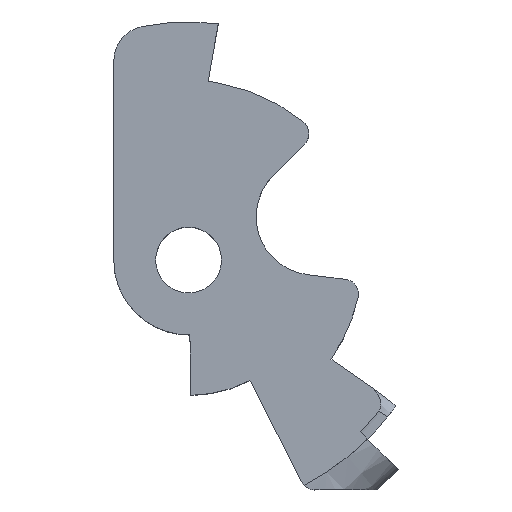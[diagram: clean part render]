
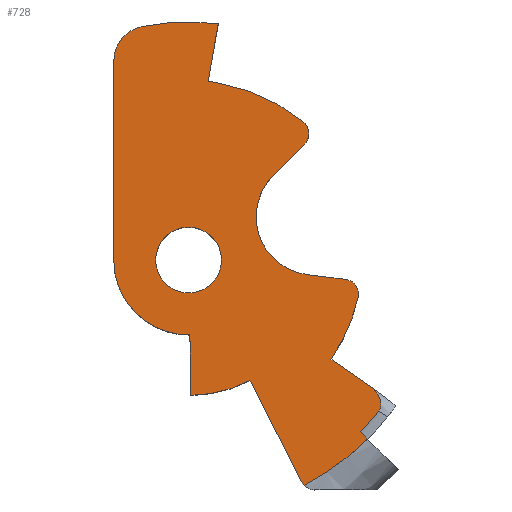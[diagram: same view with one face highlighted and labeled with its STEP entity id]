
A CAD part, top view. The second image highlights one B-rep face of the part: STEP entity #728.
In plain terms, the highlighted planar face has unit normal (0, 0, 1).
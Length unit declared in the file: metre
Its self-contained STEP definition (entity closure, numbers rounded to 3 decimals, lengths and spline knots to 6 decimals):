
#26=PLANE('',#807);
#32=LINE('',#1171,#75);
#37=LINE('',#1189,#80);
#43=LINE('',#1209,#86);
#47=LINE('',#1231,#90);
#51=LINE('',#1253,#94);
#55=LINE('',#1267,#98);
#59=LINE('',#1286,#102);
#63=LINE('',#1317,#106);
#66=LINE('',#1322,#109);
#75=VECTOR('',#842,1.);
#80=VECTOR('',#853,1.);
#86=VECTOR('',#865,1.);
#90=VECTOR('',#877,1.);
#94=VECTOR('',#889,1.);
#98=VECTOR('',#895,1.);
#102=VECTOR('',#901,1.);
#106=VECTOR('',#925,1.);
#109=VECTOR('',#930,1.);
#117=CIRCLE('',#748,0.00762);
#120=CIRCLE('',#757,0.010835);
#124=CIRCLE('',#764,0.005743);
#126=CIRCLE('',#768,0.003175);
#128=CIRCLE('',#774,0.007366);
#130=CIRCLE('',#777,0.002478);
#132=CIRCLE('',#780,0.001397);
#135=CIRCLE('',#787,0.000635);
#137=CIRCLE('',#790,0.000635);
#139=CIRCLE('',#793,0.000635);
#141=CIRCLE('',#798,0.010107);
#143=CIRCLE('',#801,0.0015);
#144=CIRCLE('',#805,0.010311);
#164=ELLIPSE('',#806,0.000899,0.000635);
#366=ORIENTED_EDGE('',*,*,#470,.F.);
#367=ORIENTED_EDGE('',*,*,#418,.F.);
#368=ORIENTED_EDGE('',*,*,#466,.T.);
#369=ORIENTED_EDGE('',*,*,#488,.T.);
#370=ORIENTED_EDGE('',*,*,#461,.T.);
#371=ORIENTED_EDGE('',*,*,#468,.T.);
#372=ORIENTED_EDGE('',*,*,#455,.T.);
#373=ORIENTED_EDGE('',*,*,#486,.T.);
#374=ORIENTED_EDGE('',*,*,#403,.T.);
#375=ORIENTED_EDGE('',*,*,#476,.F.);
#376=ORIENTED_EDGE('',*,*,#473,.T.);
#377=ORIENTED_EDGE('',*,*,#494,.T.);
#378=ORIENTED_EDGE('',*,*,#496,.T.);
#379=ORIENTED_EDGE('',*,*,#450,.T.);
#380=ORIENTED_EDGE('',*,*,#445,.T.);
#381=ORIENTED_EDGE('',*,*,#442,.T.);
#382=ORIENTED_EDGE('',*,*,#437,.T.);
#383=ORIENTED_EDGE('',*,*,#434,.T.);
#384=ORIENTED_EDGE('',*,*,#491,.T.);
#385=ORIENTED_EDGE('',*,*,#421,.T.);
#386=ORIENTED_EDGE('',*,*,#425,.T.);
#387=ORIENTED_EDGE('',*,*,#499,.F.);
#388=ORIENTED_EDGE('',*,*,#500,.F.);
#403=EDGE_CURVE('',#515,#514,#117,.T.);
#418=EDGE_CURVE('',#526,#527,#32,.T.);
#421=EDGE_CURVE('',#530,#529,#120,.T.);
#425=EDGE_CURVE('',#529,#532,#37,.T.);
#434=EDGE_CURVE('',#540,#539,#43,.T.);
#437=EDGE_CURVE('',#542,#540,#124,.T.);
#442=EDGE_CURVE('',#546,#542,#47,.T.);
#445=EDGE_CURVE('',#548,#546,#126,.T.);
#450=EDGE_CURVE('',#550,#548,#51,.T.);
#455=EDGE_CURVE('',#557,#556,#55,.T.);
#461=EDGE_CURVE('',#563,#562,#59,.T.);
#466=EDGE_CURVE('',#526,#566,#128,.T.);
#468=EDGE_CURVE('',#562,#557,#130,.T.);
#470=EDGE_CURVE('',#568,#568,#132,.T.);
#473=EDGE_CURVE('',#572,#571,#63,.T.);
#476=EDGE_CURVE('',#572,#514,#66,.T.);
#486=EDGE_CURVE('',#556,#515,#135,.T.);
#488=EDGE_CURVE('',#566,#563,#137,.T.);
#491=EDGE_CURVE('',#539,#530,#139,.T.);
#494=EDGE_CURVE('',#571,#579,#141,.T.);
#496=EDGE_CURVE('',#579,#550,#143,.T.);
#499=EDGE_CURVE('',#580,#532,#144,.F.);
#500=EDGE_CURVE('',#527,#580,#164,.F.);
#514=VERTEX_POINT('',#1119);
#515=VERTEX_POINT('',#1121);
#526=VERTEX_POINT('',#1170);
#527=VERTEX_POINT('',#1172);
#529=VERTEX_POINT('',#1177);
#530=VERTEX_POINT('',#1179);
#532=VERTEX_POINT('',#1188);
#539=VERTEX_POINT('',#1208);
#540=VERTEX_POINT('',#1210);
#542=VERTEX_POINT('',#1219);
#546=VERTEX_POINT('',#1232);
#548=VERTEX_POINT('',#1241);
#550=VERTEX_POINT('',#1250);
#556=VERTEX_POINT('',#1266);
#557=VERTEX_POINT('',#1268);
#562=VERTEX_POINT('',#1285);
#563=VERTEX_POINT('',#1287);
#566=VERTEX_POINT('',#1301);
#568=VERTEX_POINT('',#1310);
#571=VERTEX_POINT('',#1316);
#572=VERTEX_POINT('',#1318);
#579=VERTEX_POINT('',#1397);
#580=VERTEX_POINT('',#1410);
#651=EDGE_LOOP('',(#366));
#652=EDGE_LOOP('',(#367,#368,#369,#370,#371,#372,#373,#374,#375,#376,#377,
#378,#379,#380,#381,#382,#383,#384,#385,#386,#387,#388));
#689=FACE_BOUND('',#651,.T.);
#690=FACE_BOUND('',#652,.T.);
#728=ADVANCED_FACE('',(#689,#690),#26,.T.);
#748=AXIS2_PLACEMENT_3D('',#1120,#823,#824);
#757=AXIS2_PLACEMENT_3D('',#1178,#847,#848);
#764=AXIS2_PLACEMENT_3D('',#1218,#870,#871);
#768=AXIS2_PLACEMENT_3D('',#1240,#882,#883);
#774=AXIS2_PLACEMENT_3D('',#1302,#907,#908);
#777=AXIS2_PLACEMENT_3D('',#1305,#913,#914);
#780=AXIS2_PLACEMENT_3D('',#1309,#919,#920);
#787=AXIS2_PLACEMENT_3D('',#1383,#940,#941);
#790=AXIS2_PLACEMENT_3D('',#1386,#946,#947);
#793=AXIS2_PLACEMENT_3D('',#1390,#953,#954);
#798=AXIS2_PLACEMENT_3D('',#1398,#964,#965);
#801=AXIS2_PLACEMENT_3D('',#1401,#970,#971);
#805=AXIS2_PLACEMENT_3D('',#1411,#979,#980);
#806=AXIS2_PLACEMENT_3D('',#1422,#981,#982);
#807=AXIS2_PLACEMENT_3D('',#1423,#983,#984);
#823=DIRECTION('',(0.,0.,1.));
#824=DIRECTION('',(1.,0.,0.));
#842=DIRECTION('',(0.821,-0.571,0.));
#847=DIRECTION('',(0.,0.,1.));
#848=DIRECTION('',(1.,0.,0.));
#853=DIRECTION('',(-0.707,0.707,0.));
#865=DIRECTION('',(0.454,-0.891,0.));
#870=DIRECTION('',(0.,0.,1.));
#871=DIRECTION('',(1.,0.,0.));
#877=DIRECTION('',(0.017,-1.,0.));
#882=DIRECTION('',(0.,0.,1.));
#883=DIRECTION('',(1.,0.,0.));
#889=DIRECTION('',(0.,-1.,0.));
#895=DIRECTION('',(0.707,0.707,0.));
#901=DIRECTION('',(-0.993,0.122,0.));
#907=DIRECTION('',(0.,0.,1.));
#908=DIRECTION('',(1.,0.,0.));
#913=DIRECTION('',(0.,0.,-1.));
#914=DIRECTION('',(1.,0.,0.));
#919=DIRECTION('',(0.,0.,1.));
#920=DIRECTION('',(1.,0.,0.));
#925=DIRECTION('',(0.174,0.985,0.));
#930=DIRECTION('',(0.985,-0.174,0.));
#940=DIRECTION('',(0.,0.,1.));
#941=DIRECTION('',(1.,0.,0.));
#946=DIRECTION('',(0.,0.,1.));
#947=DIRECTION('',(1.,0.,0.));
#953=DIRECTION('',(0.,0.,1.));
#954=DIRECTION('',(1.,0.,0.));
#964=DIRECTION('',(0.,0.,1.));
#965=DIRECTION('',(1.,0.,0.));
#970=DIRECTION('',(0.,0.,1.));
#971=DIRECTION('',(1.,0.,0.));
#979=DIRECTION('',(0.,0.,1.));
#980=DIRECTION('',(1.,0.,0.));
#981=DIRECTION('',(0.,0.,1.));
#982=DIRECTION('',(-0.821,0.571,0.));
#983=DIRECTION('',(0.,0.,1.));
#984=DIRECTION('',(1.,0.,0.));
#1119=CARTESIAN_POINT('',(0.007038,0.007504,0.004575));
#1120=CARTESIAN_POINT('',(0.005715,0.,0.004575));
#1121=CARTESIAN_POINT('',(0.010591,0.005856,0.004575));
#1170=CARTESIAN_POINT('',(0.011761,-0.004208,0.004575));
#1171=CARTESIAN_POINT('',(0.011239,-0.003845,0.004575));
#1172=CARTESIAN_POINT('',(0.013428,-0.005369,0.004575));
#1177=CARTESIAN_POINT('',(0.013313,-0.007598,0.004575));
#1178=CARTESIAN_POINT('',(0.005664,0.000076,0.004575));
#1179=CARTESIAN_POINT('',(0.010618,-0.009559,0.004575));
#1188=CARTESIAN_POINT('',(0.013006,-0.007291,0.004575));
#1189=CARTESIAN_POINT('',(0.010924,-0.005209,0.004575));
#1208=CARTESIAN_POINT('',(0.010507,-0.009404,0.004575));
#1209=CARTESIAN_POINT('',(0.008322,-0.005117,0.004575));
#1210=CARTESIAN_POINT('',(0.008322,-0.005117,0.004575));
#1218=CARTESIAN_POINT('',(0.005715,0.,0.004575));
#1219=CARTESIAN_POINT('',(0.005815,-0.005742,0.004575));
#1231=CARTESIAN_POINT('',(0.005815,-0.005742,0.004575));
#1232=CARTESIAN_POINT('',(0.00577,-0.003175,0.004575));
#1240=CARTESIAN_POINT('',(0.005715,0.,0.004575));
#1241=CARTESIAN_POINT('',(0.00254,0.,0.004575));
#1250=CARTESIAN_POINT('',(0.00254,0.008442,0.004575));
#1253=CARTESIAN_POINT('',(0.00254,0.009279,0.004575));
#1266=CARTESIAN_POINT('',(0.010634,0.004919,0.004575));
#1267=CARTESIAN_POINT('',(0.009308,0.003593,0.004575));
#1268=CARTESIAN_POINT('',(0.009308,0.003593,0.004575));
#1285=CARTESIAN_POINT('',(0.010758,-0.000619,0.004575));
#1286=CARTESIAN_POINT('',(0.013026,-0.000898,0.004575));
#1287=CARTESIAN_POINT('',(0.012366,-0.000817,0.004575));
#1301=CARTESIAN_POINT('',(0.012909,-0.001583,0.004575));
#1302=CARTESIAN_POINT('',(0.005715,0.,0.004575));
#1305=CARTESIAN_POINT('',(0.01106,0.001841,0.004575));
#1309=CARTESIAN_POINT('',(0.005715,0.,0.004575));
#1310=CARTESIAN_POINT('',(0.007112,0.,0.004575));
#1316=CARTESIAN_POINT('',(0.006975,0.010028,0.004575));
#1317=CARTESIAN_POINT('',(0.006762,0.008816,0.004575));
#1318=CARTESIAN_POINT('',(0.006546,0.007591,0.004575));
#1322=CARTESIAN_POINT('',(0.006792,0.007548,0.004575));
#1383=CARTESIAN_POINT('',(0.010185,0.005368,0.004575));
#1386=CARTESIAN_POINT('',(0.012289,-0.001447,0.004575));
#1390=CARTESIAN_POINT('',(0.011073,-0.009116,0.004575));
#1397=CARTESIAN_POINT('',(0.003748,0.009914,0.004575));
#1398=CARTESIAN_POINT('',(0.005715,0.,0.004575));
#1401=CARTESIAN_POINT('',(0.00404,0.008442,0.004575));
#1410=CARTESIAN_POINT('',(0.01378,-0.006423,0.004575));
#1411=CARTESIAN_POINT('',(0.005715,0.,0.004575));
#1422=CARTESIAN_POINT('',(0.01306,-0.005886,0.004575));
#1423=CARTESIAN_POINT('',(0.005715,0.,0.004575));
